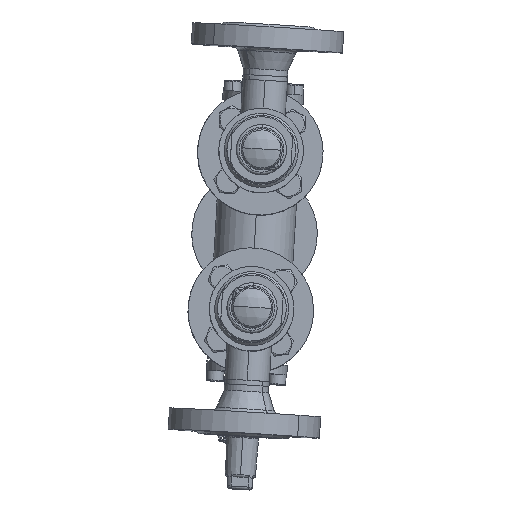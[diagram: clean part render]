
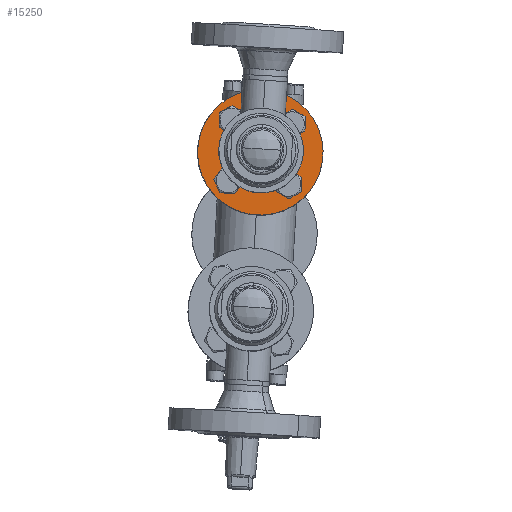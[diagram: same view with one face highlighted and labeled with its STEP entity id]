
A CAD part, left-side view. The second image highlights one B-rep face of the part: STEP entity #15250.
In plain terms, the highlighted planar face has unit normal (-1, -0.004, 0.009) as drawn and (0, 1, 0) by its records, which use the part's own axes.
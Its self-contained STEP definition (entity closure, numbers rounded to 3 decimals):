
#33 = CARTESIAN_POINT ( 'NONE',  ( 47.5, 16., 0. ) ) ;
#339 = ORIENTED_EDGE ( 'NONE', *, *, #16065, .F. ) ;
#564 = CIRCLE ( 'NONE', #565, 7. ) ;
#565 = AXIS2_PLACEMENT_3D ( 'NONE', #566, #567, #568 ) ;
#566 = CARTESIAN_POINT ( 'NONE',  ( 0., 16., -32.5 ) ) ;
#567 = DIRECTION ( 'NONE',  ( 0., 1., 0. ) ) ;
#568 = DIRECTION ( 'NONE',  ( 0., 0., 1. ) ) ;
#33448 = VERTEX_POINT ( 'NONE', #27200 ) ;
#33671 = ORIENTED_EDGE ( 'NONE', *, *, #32702, .F. ) ;
#34109 = EDGE_CURVE ( 'NONE', #15757, #33448, #27817, .T. ) ;
#1745 = EDGE_LOOP ( 'NONE', ( #339, #41798 ) ) ;
#18193 = FACE_BOUND ( 'NONE', #14756, .T. ) ;
#18221 = FACE_BOUND ( 'NONE', #30934, .T. ) ;
#18222 = FACE_BOUND ( 'NONE', #27518, .T. ) ;
#18223 = FACE_BOUND ( 'NONE', #11550, .T. ) ;
#18224 = FACE_BOUND ( 'NONE', #1745, .T. ) ;
#18225 = FACE_OUTER_BOUND ( 'NONE', #41079, .T. ) ;
#18226 = PLANE ( 'NONE',  #18227 ) ;
#18227 = AXIS2_PLACEMENT_3D ( 'NONE', #18228, #18229, #18230 ) ;
#18228 = CARTESIAN_POINT ( 'NONE',  ( 47.5, 16., 0. ) ) ;
#18229 = DIRECTION ( 'NONE',  ( 0., -1., 0. ) ) ;
#18230 = DIRECTION ( 'NONE',  ( 1., 0., 0. ) ) ;
#2251 = ORIENTED_EDGE ( 'NONE', *, *, #12123, .F. ) ;
#35018 = VERTEX_POINT ( 'NONE', #28239 ) ;
#2863 = VERTEX_POINT ( 'NONE', #37717 ) ;
#3345 = EDGE_CURVE ( 'NONE', #24853, #2863, #39403, .T. ) ;
#3348 = EDGE_CURVE ( 'NONE', #11672, #35018, #39455, .T. ) ;
#3532 = CARTESIAN_POINT ( 'NONE',  ( 7., 16., -32.5 ) ) ;
#20268 = CARTESIAN_POINT ( 'NONE',  ( -25.5, 16., 0. ) ) ;
#4122 = ORIENTED_EDGE ( 'NONE', *, *, #3348, .F. ) ;
#36955 = EDGE_CURVE ( 'NONE', #23043, #20744, #31537, .T. ) ;
#20744 = VERTEX_POINT ( 'NONE', #38179 ) ;
#20902 = CIRCLE ( 'NONE', #20903, 18.88 ) ;
#20903 = AXIS2_PLACEMENT_3D ( 'NONE', #20904, #20905, #20906 ) ;
#20904 = CARTESIAN_POINT ( 'NONE',  ( 0., 16., 0. ) ) ;
#20905 = DIRECTION ( 'NONE',  ( 0., 1., 0. ) ) ;
#20906 = DIRECTION ( 'NONE',  ( -1., 0., 0. ) ) ;
#4682 = VERTEX_POINT ( 'NONE', #42667 ) ;
#21214 = EDGE_CURVE ( 'NONE', #20744, #23043, #38760, .T. ) ;
#37717 = CARTESIAN_POINT ( 'NONE',  ( -7., 16., 32.5 ) ) ;
#5152 = EDGE_CURVE ( 'NONE', #6995, #4682, #564, .T. ) ;
#5210 = CARTESIAN_POINT ( 'NONE',  ( 7., 16., 32.5 ) ) ;
#38040 = ORIENTED_EDGE ( 'NONE', *, *, #36955, .T. ) ;
#38179 = CARTESIAN_POINT ( 'NONE',  ( -47.5, 16., 0. ) ) ;
#5787 = CIRCLE ( 'NONE', #5788, 7. ) ;
#5788 = AXIS2_PLACEMENT_3D ( 'NONE', #5789, #5790, #5791 ) ;
#5789 = CARTESIAN_POINT ( 'NONE',  ( 0., 16., 32.5 ) ) ;
#5790 = DIRECTION ( 'NONE',  ( 0., 1., 0. ) ) ;
#5791 = DIRECTION ( 'NONE',  ( 0., 0., -1. ) ) ;
#38760 = CIRCLE ( 'NONE', #38761, 47.5 ) ;
#38761 = AXIS2_PLACEMENT_3D ( 'NONE', #38762, #38763, #38764 ) ;
#38762 = CARTESIAN_POINT ( 'NONE',  ( 0., 16., 0. ) ) ;
#38763 = DIRECTION ( 'NONE',  ( 0., 1., 0. ) ) ;
#38764 = DIRECTION ( 'NONE',  ( -1., 0., 0. ) ) ;
#39403 = CIRCLE ( 'NONE', #39404, 7. ) ;
#39404 = AXIS2_PLACEMENT_3D ( 'NONE', #39405, #39406, #39407 ) ;
#39405 = CARTESIAN_POINT ( 'NONE',  ( 0., 16., 32.5 ) ) ;
#39406 = DIRECTION ( 'NONE',  ( 0., 1., 0. ) ) ;
#39407 = DIRECTION ( 'NONE',  ( 0., 0., -1. ) ) ;
#23043 = VERTEX_POINT ( 'NONE', #33 ) ;
#39455 = CIRCLE ( 'NONE', #39456, 7. ) ;
#39456 = AXIS2_PLACEMENT_3D ( 'NONE', #39457, #39458, #39459 ) ;
#39457 = CARTESIAN_POINT ( 'NONE',  ( 32.5, 16., 0. ) ) ;
#39458 = DIRECTION ( 'NONE',  ( 0., 1., 0. ) ) ;
#39459 = DIRECTION ( 'NONE',  ( -1., 0., 0. ) ) ;
#39555 = ORIENTED_EDGE ( 'NONE', *, *, #21214, .T. ) ;
#6995 = VERTEX_POINT ( 'NONE', #3532 ) ;
#41079 = EDGE_LOOP ( 'NONE', ( #39555, #38040 ) ) ;
#24853 = VERTEX_POINT ( 'NONE', #5210 ) ;
#25334 = EDGE_CURVE ( 'NONE', #2863, #24853, #5787, .T. ) ;
#41798 = ORIENTED_EDGE ( 'NONE', *, *, #30252, .F. ) ;
#26030 = CARTESIAN_POINT ( 'NONE',  ( 18.88, 16., 0. ) ) ;
#26114 = ORIENTED_EDGE ( 'NONE', *, *, #25334, .F. ) ;
#42667 = CARTESIAN_POINT ( 'NONE',  ( -7., 16., -32.5 ) ) ;
#26815 = CIRCLE ( 'NONE', #26816, 7. ) ;
#26816 = AXIS2_PLACEMENT_3D ( 'NONE', #26817, #26818, #26819 ) ;
#26817 = CARTESIAN_POINT ( 'NONE',  ( 0., 16., -32.5 ) ) ;
#26818 = DIRECTION ( 'NONE',  ( 0., 1., 0. ) ) ;
#26819 = DIRECTION ( 'NONE',  ( 0., 0., 1. ) ) ;
#27200 = CARTESIAN_POINT ( 'NONE',  ( -39.5, 16., 0. ) ) ;
#27518 = EDGE_LOOP ( 'NONE', ( #26114, #31941 ) ) ;
#27817 = CIRCLE ( 'NONE', #27818, 7. ) ;
#27818 = AXIS2_PLACEMENT_3D ( 'NONE', #27819, #27820, #27821 ) ;
#27819 = CARTESIAN_POINT ( 'NONE',  ( -32.5, 16., 0. ) ) ;
#27820 = DIRECTION ( 'NONE',  ( 0., 1., 0. ) ) ;
#27821 = DIRECTION ( 'NONE',  ( 1., 0., 0. ) ) ;
#11550 = EDGE_LOOP ( 'NONE', ( #4122, #2251 ) ) ;
#28018 = ORIENTED_EDGE ( 'NONE', *, *, #34109, .F. ) ;
#11672 = VERTEX_POINT ( 'NONE', #13429 ) ;
#11835 = CIRCLE ( 'NONE', #11836, 7. ) ;
#11836 = AXIS2_PLACEMENT_3D ( 'NONE', #11837, #11838, #11839 ) ;
#11837 = CARTESIAN_POINT ( 'NONE',  ( -32.5, 16., 0. ) ) ;
#11838 = DIRECTION ( 'NONE',  ( 0., 1., 0. ) ) ;
#11839 = DIRECTION ( 'NONE',  ( 1., 0., 0. ) ) ;
#28239 = CARTESIAN_POINT ( 'NONE',  ( 39.5, 16., 0. ) ) ;
#12123 = EDGE_CURVE ( 'NONE', #35018, #11672, #13890, .T. ) ;
#29101 = EDGE_CURVE ( 'NONE', #33448, #15757, #11835, .T. ) ;
#29788 = VERTEX_POINT ( 'NONE', #14316 ) ;
#13429 = CARTESIAN_POINT ( 'NONE',  ( 25.5, 16., 0. ) ) ;
#29864 = ORIENTED_EDGE ( 'NONE', *, *, #29101, .F. ) ;
#30252 = EDGE_CURVE ( 'NONE', #32111, #29788, #15199, .T. ) ;
#13890 = CIRCLE ( 'NONE', #13891, 7. ) ;
#13891 = AXIS2_PLACEMENT_3D ( 'NONE', #13892, #13893, #13894 ) ;
#13892 = CARTESIAN_POINT ( 'NONE',  ( 32.5, 16., 0. ) ) ;
#13893 = DIRECTION ( 'NONE',  ( 0., 1., 0. ) ) ;
#13894 = DIRECTION ( 'NONE',  ( -1., 0., 0. ) ) ;
#14316 = CARTESIAN_POINT ( 'NONE',  ( -18.88, 16., 0. ) ) ;
#30934 = EDGE_LOOP ( 'NONE', ( #29864, #28018 ) ) ;
#14756 = EDGE_LOOP ( 'NONE', ( #33671, #31437 ) ) ;
#31437 = ORIENTED_EDGE ( 'NONE', *, *, #5152, .F. ) ;
#31537 = CIRCLE ( 'NONE', #31538, 47.5 ) ;
#31538 = AXIS2_PLACEMENT_3D ( 'NONE', #31539, #31540, #31541 ) ;
#31539 = CARTESIAN_POINT ( 'NONE',  ( 0., 16., 0. ) ) ;
#31540 = DIRECTION ( 'NONE',  ( 0., 1., 0. ) ) ;
#31541 = DIRECTION ( 'NONE',  ( -1., 0., 0. ) ) ;
#15199 = CIRCLE ( 'NONE', #15200, 18.88 ) ;
#15200 = AXIS2_PLACEMENT_3D ( 'NONE', #15201, #15202, #15203 ) ;
#15201 = CARTESIAN_POINT ( 'NONE',  ( 0., 16., 0. ) ) ;
#15202 = DIRECTION ( 'NONE',  ( 0., 1., 0. ) ) ;
#15203 = DIRECTION ( 'NONE',  ( -1., 0., 0. ) ) ;
#15250 = ADVANCED_FACE ( 'NONE', ( #18193, #18221, #18222, #18223, #18224, #18225 ), #18226, .F. ) ;
#31941 = ORIENTED_EDGE ( 'NONE', *, *, #3345, .F. ) ;
#32111 = VERTEX_POINT ( 'NONE', #26030 ) ;
#15757 = VERTEX_POINT ( 'NONE', #20268 ) ;
#16065 = EDGE_CURVE ( 'NONE', #29788, #32111, #20902, .T. ) ;
#32702 = EDGE_CURVE ( 'NONE', #4682, #6995, #26815, .T. ) ;
